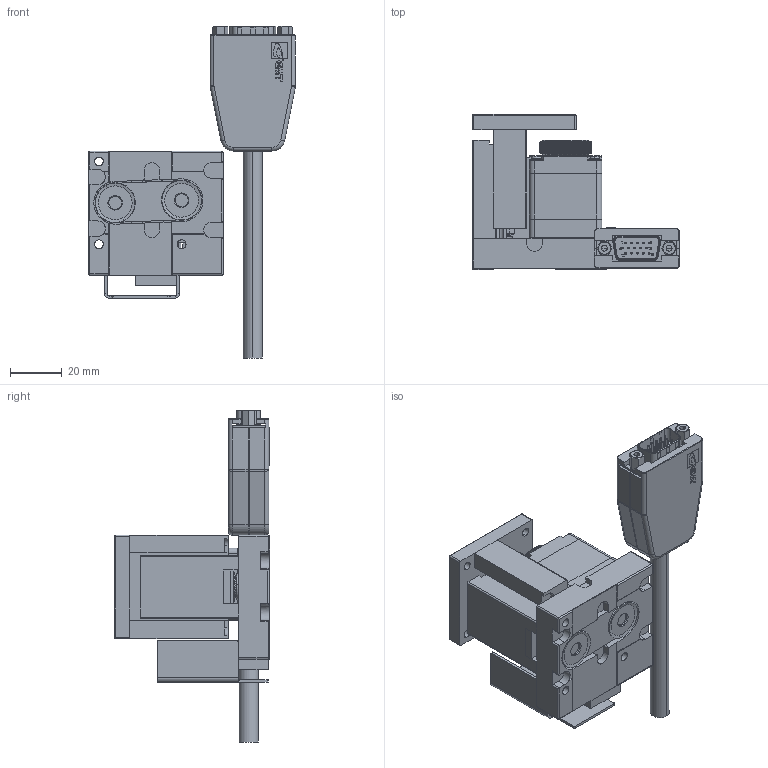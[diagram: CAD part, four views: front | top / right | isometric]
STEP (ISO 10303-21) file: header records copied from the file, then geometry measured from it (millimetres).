
FILE_DESCRIPTION (( 'STEP AP203' ), '1' );
FILE_NAME ('AZV4006-F¼Ò½k¤Æ.STEP', '2014-02-12T10:38:37', ( '' ), ( '' ), 'SwSTEP 2.0', 'SolidWorks 2013', '' );
FILE_SCHEMA (( 'CONFIG_CONTROL_DESIGN' ));
Products named in the file (3): Group1^AZV4006-F模糊化; Group2^AZV4006-F模糊化; AZV4006-F模糊化
Assembly tree (2 placements, depth 2):
  AZV4006-F模糊化
    Group1^AZV4006-F模糊化
    Group2^AZV4006-F模糊化
Bounding box: 80 x 60 x 128.36 mm (x, y, z)
Volume: 22517 mm3; surface area: 48095.8 mm2
Topology: 1 solids, 9 shells, 2384 faces, 6655 edges, 4325 vertices
Faces by surface type: plane 1068, cylinder 970, torus 200, bspline 74, cone 66, sphere 6
Entity records: 82429 total; most frequent: CARTESIAN_POINT 21577, ORIENTED_EDGE 13074, DIRECTION 12315, EDGE_CURVE 6645, AXIS2_PLACEMENT_3D 4406, VERTEX_POINT 4325, LINE 3503, VECTOR 3503
